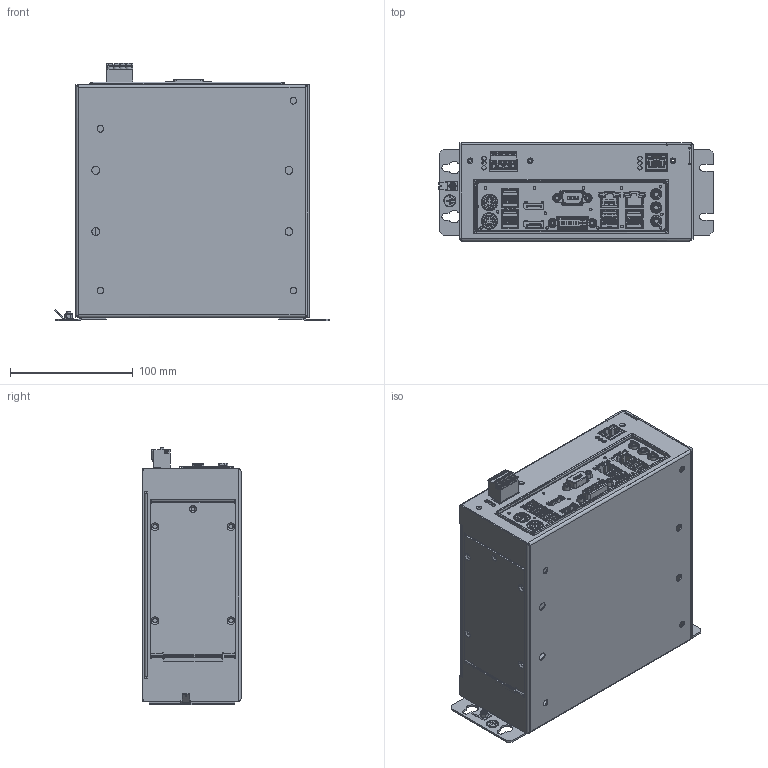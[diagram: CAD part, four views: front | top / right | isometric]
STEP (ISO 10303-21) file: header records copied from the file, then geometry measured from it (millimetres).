
FILE_DESCRIPTION (( 'STEP AP214' ), '1' );
FILE_NAME ('PC400 support.STEP', '2016-03-22T10:34:15', ( 'SIGMATEK GmbH & Co KG' ), ( 'SIGMATEK GmbH & Co KG' ), 'SwSTEP 2.0', 'SolidWorks 2015', '' );
FILE_SCHEMA (( 'AUTOMOTIVE_DESIGN' ));
Length unit declared in the file: millimetre
Products named in the file (21): DIVBU53D-039_S1-DIVBU53; BUUSB3LAN-028_S1-BUUSLAN; BUUSBLAN5-022_S1-BUUSBLAN5; DIVBU21B-013_S1-DIVBU21; BUUSB1-016_S1-BUUSB1; DIVBU19-017_S1-DIVBU19-017; EMV Shield; PC 400 Bodenplatte support; 4080225350 RJ45 Ethernet Buchse90 (M-RJSSE-5381-01T-REVT1)_Ohne Lichtleiter; 4110251287 4pol. Federkraftstecker RM5,08 1873074; PC400 support; Festplattenhalter; PC 400 Deckel support; Sechskantmutter EN ISO 10511 (DIN 985) - M3 - 04 St-verzinkt; 3030261492 Steckzunge 6,3 m.B. M3 DIN46244 St-verzinnt; PC_Halteblech unten; PC_Halteblech_oben_mit_Erdung; fh_m3_8; PC_Halteblech oben; Mini ITX D3243-S support; DIVBU55-040_S1-THT
Assembly tree (20 placements, depth 3):
  PC400 support
    PC 400 Bodenplatte support
    EMV Shield
    Mini ITX D3243-S support
      DIVBU19-017_S1-DIVBU19-017
      BUUSB1-016_S1-BUUSB1
      DIVBU21B-013_S1-DIVBU21
      BUUSBLAN5-022_S1-BUUSBLAN5
      BUUSB3LAN-028_S1-BUUSLAN
      DIVBU53D-039_S1-DIVBU53
      DIVBU55-040_S1-THT
    PC_Halteblech_oben_mit_Erdung
      PC_Halteblech oben
      fh_m3_8
    PC_Halteblech unten
    3030261492 Steckzunge 6,3 m.B. M3 DIN46244 St-verzinnt
    Sechskantmutter EN ISO 10511 (DIN 985) - M3 - 04 St-verzinkt
    PC 400 Deckel support
    Festplattenhalter
    4110251287 4pol. Federkraftstecker RM5,08 1873074
    4080225350 RJ45 Ethernet Buchse90 (M-RJSSE-5381-01T-REVT1)_Ohne Lichtleiter
Bounding box: 224.34 x 80 x 210.57 mm (x, y, z)
Volume: 241799.6 mm3; surface area: 346190.4 mm2
Topology: 19 solids, 65 shells, 5851 faces, 15766 edges, 10249 vertices
Faces by surface type: plane 3896, cylinder 1477, bspline 354, cone 116, torus 8
Entity records: 238536 total; most frequent: CARTESIAN_POINT 58658, ORIENTED_EDGE 31260, DIRECTION 25560, EDGE_CURVE 15752, LINE 11086, VECTOR 11086, VERTEX_POINT 10248, AXIS2_PLACEMENT_3D 7237
